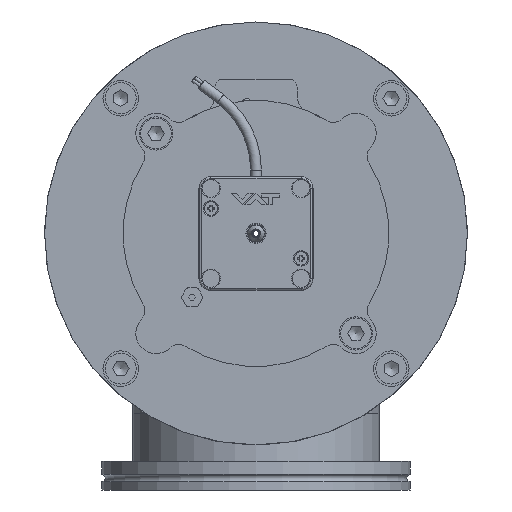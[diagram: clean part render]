
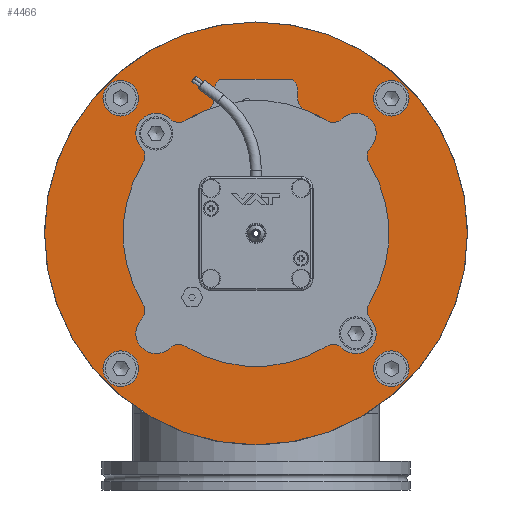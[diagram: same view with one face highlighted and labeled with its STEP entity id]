
A CAD part, left-side view. The second image highlights one B-rep face of the part: STEP entity #4466.
In plain terms, the highlighted planar face has unit normal (-1, 0, 0).
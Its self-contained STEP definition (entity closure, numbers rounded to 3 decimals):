
#4466=ADVANCED_FACE('BCT_REF_156008',(#5923,#5924,#5925,#5926,#5927,#5928,
#5929,#5930,#5931,#5932),#4873,.F.);
#4873=PLANE('',#15231);
#5409=CIRCLE('',#15206,89.);
#5419=CIRCLE('',#15222,3.4);
#5420=CIRCLE('',#15223,3.4);
#5421=CIRCLE('',#15224,3.4);
#5422=CIRCLE('',#15225,3.4);
#5423=CIRCLE('',#15226,7.5);
#5424=CIRCLE('',#15227,7.5);
#5425=CIRCLE('',#15228,7.5);
#5426=CIRCLE('',#15229,7.5);
#5427=CIRCLE('',#15230,55.145);
#5923=FACE_BOUND('',#6890,.T.);
#5924=FACE_BOUND('',#6891,.T.);
#5925=FACE_BOUND('',#6892,.T.);
#5926=FACE_BOUND('',#6893,.T.);
#5927=FACE_BOUND('',#6894,.T.);
#5928=FACE_BOUND('',#6895,.T.);
#5929=FACE_BOUND('',#6896,.T.);
#5930=FACE_BOUND('',#6897,.T.);
#5931=FACE_BOUND('',#6898,.T.);
#5932=FACE_BOUND('',#6899,.T.);
#6890=EDGE_LOOP('',(#9779));
#6891=EDGE_LOOP('',(#9780));
#6892=EDGE_LOOP('',(#9781));
#6893=EDGE_LOOP('',(#9782));
#6894=EDGE_LOOP('',(#9783));
#6895=EDGE_LOOP('',(#9784));
#6896=EDGE_LOOP('',(#9785));
#6897=EDGE_LOOP('',(#9786));
#6898=EDGE_LOOP('',(#9787));
#6899=EDGE_LOOP('',(#9788));
#9779=ORIENTED_EDGE('',*,*,#12537,.T.);
#9780=ORIENTED_EDGE('',*,*,#12538,.T.);
#9781=ORIENTED_EDGE('',*,*,#12539,.T.);
#9782=ORIENTED_EDGE('',*,*,#12540,.T.);
#9783=ORIENTED_EDGE('',*,*,#12541,.T.);
#9784=ORIENTED_EDGE('',*,*,#12542,.T.);
#9785=ORIENTED_EDGE('',*,*,#12543,.T.);
#9786=ORIENTED_EDGE('',*,*,#12544,.T.);
#9787=ORIENTED_EDGE('',*,*,#12545,.T.);
#9788=ORIENTED_EDGE('',*,*,#12517,.T.);
#11037=VERTEX_POINT('',#24089);
#11052=VERTEX_POINT('',#24142);
#11053=VERTEX_POINT('',#24144);
#11054=VERTEX_POINT('',#24146);
#11055=VERTEX_POINT('',#24148);
#11056=VERTEX_POINT('',#24150);
#11057=VERTEX_POINT('',#24152);
#11058=VERTEX_POINT('',#24154);
#11059=VERTEX_POINT('',#24156);
#11060=VERTEX_POINT('',#24158);
#12517=EDGE_CURVE('',#11037,#11037,#5409,.T.);
#12537=EDGE_CURVE('',#11052,#11052,#5419,.T.);
#12538=EDGE_CURVE('',#11053,#11053,#5420,.T.);
#12539=EDGE_CURVE('',#11054,#11054,#5421,.T.);
#12540=EDGE_CURVE('',#11055,#11055,#5422,.T.);
#12541=EDGE_CURVE('BCT_REF_155885',#11056,#11056,#5423,.T.);
#12542=EDGE_CURVE('',#11057,#11057,#5424,.T.);
#12543=EDGE_CURVE('',#11058,#11058,#5425,.T.);
#12544=EDGE_CURVE('',#11059,#11059,#5426,.T.);
#12545=EDGE_CURVE('BCT_REF_156011',#11060,#11060,#5427,.T.);
#15206=AXIS2_PLACEMENT_3D('',#24088,#18196,#18197);
#15222=AXIS2_PLACEMENT_3D('',#24141,#18236,#18237);
#15223=AXIS2_PLACEMENT_3D('',#24143,#18238,#18239);
#15224=AXIS2_PLACEMENT_3D('',#24145,#18240,#18241);
#15225=AXIS2_PLACEMENT_3D('',#24147,#18242,#18243);
#15226=AXIS2_PLACEMENT_3D('',#24149,#18244,#18245);
#15227=AXIS2_PLACEMENT_3D('',#24151,#18246,#18247);
#15228=AXIS2_PLACEMENT_3D('',#24153,#18248,#18249);
#15229=AXIS2_PLACEMENT_3D('',#24155,#18250,#18251);
#15230=AXIS2_PLACEMENT_3D('',#24157,#18252,#18253);
#15231=AXIS2_PLACEMENT_3D('',#24159,#18254,#18255);
#18196=DIRECTION('',(-1.,0.,0.));
#18197=DIRECTION('',(0.,0.,1.));
#18236=DIRECTION('',(1.,0.,0.));
#18237=DIRECTION('',(0.,-1.,0.));
#18238=DIRECTION('',(1.,0.,0.));
#18239=DIRECTION('',(0.,0.,1.));
#18240=DIRECTION('',(1.,0.,0.));
#18241=DIRECTION('',(0.,1.,0.));
#18242=DIRECTION('',(1.,0.,0.));
#18243=DIRECTION('',(0.,0.,-1.));
#18244=DIRECTION('',(1.,0.,0.));
#18245=DIRECTION('',(0.,-1.,0.));
#18246=DIRECTION('',(1.,0.,0.));
#18247=DIRECTION('',(0.,0.,1.));
#18248=DIRECTION('',(1.,0.,0.));
#18249=DIRECTION('',(0.,1.,0.));
#18250=DIRECTION('',(1.,0.,0.));
#18251=DIRECTION('',(0.,0.,-1.));
#18252=DIRECTION('',(1.,0.,0.));
#18253=DIRECTION('',(0.,0.,-1.));
#18254=DIRECTION('',(1.,0.,0.));
#18255=DIRECTION('',(0.,0.,-1.));
#24088=CARTESIAN_POINT('',(0.,0.,0.));
#24089=CARTESIAN_POINT('',(0.,0.,89.));
#24141=CARTESIAN_POINT('',(0.,-42.073,-42.073));
#24142=CARTESIAN_POINT('',(0.,-45.473,-42.073));
#24143=CARTESIAN_POINT('',(0.,-42.073,42.073));
#24144=CARTESIAN_POINT('',(0.,-42.073,45.473));
#24145=CARTESIAN_POINT('',(0.,42.073,42.073));
#24146=CARTESIAN_POINT('',(0.,45.473,42.073));
#24147=CARTESIAN_POINT('',(0.,42.073,-42.073));
#24148=CARTESIAN_POINT('',(0.,42.073,-45.473));
#24149=CARTESIAN_POINT('',(0.,56.922,-56.922));
#24150=CARTESIAN_POINT('',(0.,49.422,-56.922));
#24151=CARTESIAN_POINT('',(0.,-56.922,-56.922));
#24152=CARTESIAN_POINT('',(0.,-56.922,-49.422));
#24153=CARTESIAN_POINT('',(0.,-56.922,56.922));
#24154=CARTESIAN_POINT('',(0.,-49.422,56.922));
#24155=CARTESIAN_POINT('',(0.,56.922,56.922));
#24156=CARTESIAN_POINT('',(0.,56.922,49.422));
#24157=CARTESIAN_POINT('',(0.,0.,0.));
#24158=CARTESIAN_POINT('',(0.,0.,-55.145));
#24159=CARTESIAN_POINT('',(0.,89.,0.));
